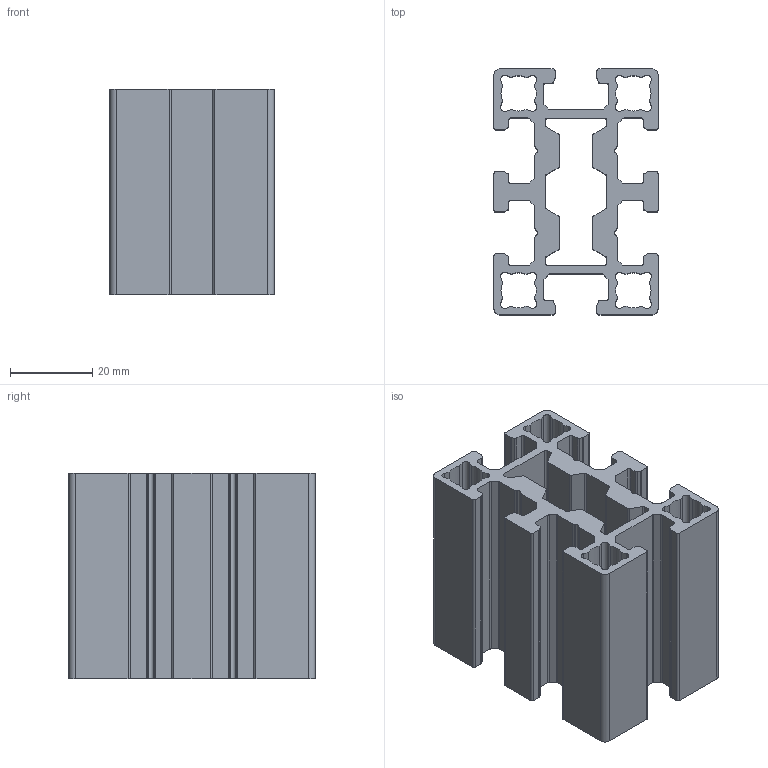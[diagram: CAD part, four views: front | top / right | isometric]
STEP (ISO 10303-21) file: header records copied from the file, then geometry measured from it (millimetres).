
FILE_DESCRIPTION(('STEP AP214'),'1');
FILE_NAME('F46L-.stp','2017-07-14T08:05:09',(' '),(' '),'Spatial InterOp 3D',' ',' ');
FILE_SCHEMA(('automotive_design'));
Length unit declared in the file: millimetre
Products named in the file (1): F46L-
Bounding box: 40 x 60 x 50 mm (x, y, z)
Volume: 44350.3 mm3; surface area: 32786 mm2
Topology: 1 solids, 1 shells, 282 faces, 840 edges, 560 vertices
Faces by surface type: plane 142, cylinder 140
Entity records: 11836 total; most frequent: DIRECTION 1686, CARTESIAN_POINT 1683, ORIENTED_EDGE 1680, EDGE_CURVE 840, AXIS2_PLACEMENT_3D 563, VERTEX_POINT 560, LINE 560, VECTOR 560
